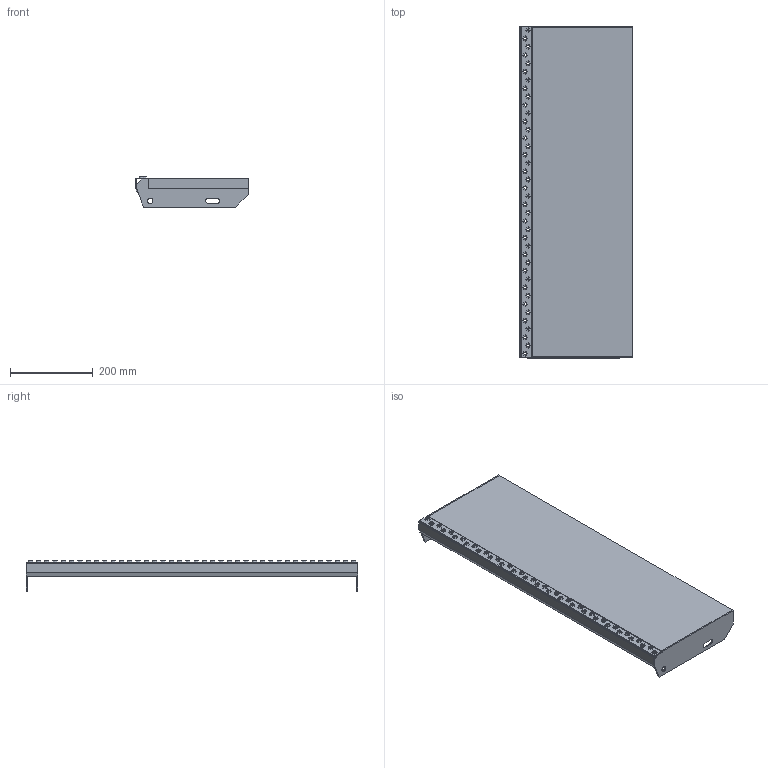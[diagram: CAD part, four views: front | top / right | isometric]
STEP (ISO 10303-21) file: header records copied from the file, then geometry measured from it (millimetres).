
FILE_DESCRIPTION(('Open CASCADE Model'),'2;1');
FILE_NAME('Open CASCADE Shape Model','2019-03-13T09:58:22',('Author'),( 'Open CASCADE'),'Open CASCADE STEP processor 7.2','Open CASCADE 7.2' ,'Unknown');
FILE_SCHEMA(('AUTOMOTIVE_DESIGN { 1 0 10303 214 1 1 1 1 }'));
Length unit declared in the file: millimetre
Products named in the file (1260): Open CASCADE STEP translator 7.2 1; Open CASCADE STEP translator 7.2 2; Open CASCADE STEP translator 7.2 3; Open CASCADE STEP translator 7.2 3.1; Open CASCADE STEP translator 7.2 3.2; Open CASCADE STEP translator 7.2 3.3; Open CASCADE STEP translator 7.2 3.4; Open CASCADE STEP translator 7.2 3.5; Open CASCADE STEP translator 7.2 3.6; Open CASCADE STEP translator 7.2 3.7; Open CASCADE STEP translator 7.2 3.8; Open CASCADE STEP translator 7.2 3.9; Open CASCADE STEP translator 7.2 3.10; Open CASCADE STEP translator 7.2 3.11; Open CASCADE STEP translator 7.2 3.12; Open CASCADE STEP translator 7.2 3.13; Open CASCADE STEP translator 7.2 3.14; Open CASCADE STEP translator 7.2 3.15; Open CASCADE STEP translator 7.2 3.16; Open CASCADE STEP translator 7.2 3.17; Open CASCADE STEP translator 7.2 3.18; Open CASCADE STEP translator 7.2 3.19; Open CASCADE STEP translator 7.2 3.20; Open CASCADE STEP translator 7.2 3.21; Open CASCADE STEP translator 7.2 3.22; Open CASCADE STEP translator 7.2 3.23; Open CASCADE STEP translator 7.2 3.24; Open CASCADE STEP translator 7.2 3.25; Open CASCADE STEP translator 7.2 3.26; Open CASCADE STEP translator 7.2 3.27; Open CASCADE STEP translator 7.2 3.28; Open CASCADE STEP translator 7.2 3.29; Open CASCADE STEP translator 7.2 3.30; Open CASCADE STEP translator 7.2 3.31; Open CASCADE STEP translator 7.2 3.32; Open CASCADE STEP translator 7.2 3.33; Open CASCADE STEP translator 7.2 3.34; Open CASCADE STEP translator 7.2 3.35; Open CASCADE STEP translator 7.2 3.36; Open CASCADE STEP translator 7.2 3.37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
Assembly tree (1256 placements, depth 2):
  Open CASCADE STEP translator 7.2 1
  Open CASCADE STEP translator 7.2 2
  Open CASCADE STEP translator 7.2 3
    Open CASCADE STEP translator 7.2 3.1
    Open CASCADE STEP translator 7.2 3.2
    Open CASCADE STEP translator 7.2 3.3
    Open CASCADE STEP translator 7.2 3.4
    Open CASCADE STEP translator 7.2 3.5
    Open CASCADE STEP translator 7.2 3.6
    Open CASCADE STEP translator 7.2 3.7
    Open CASCADE STEP translator 7.2 3.8
    Open CASCADE STEP translator 7.2 3.9
    Open CASCADE STEP translator 7.2 3.10
    Open CASCADE STEP translator 7.2 3.11
    Open CASCADE STEP translator 7.2 3.12
    Open CASCADE STEP translator 7.2 3.13
    Open CASCADE STEP translator 7.2 3.14
    Open CASCADE STEP translator 7.2 3.15
    Open CASCADE STEP translator 7.2 3.16
    Open CASCADE STEP translator 7.2 3.17
    Open CASCADE STEP translator 7.2 3.18
    Open CASCADE STEP translator 7.2 3.19
    Open CASCADE STEP translator 7.2 3.20
    Open CASCADE STEP translator 7.2 3.21
    Open CASCADE STEP translator 7.2 3.22
    Open CASCADE STEP translator 7.2 3.23
    Open CASCADE STEP translator 7.2 3.24
    Open CASCADE STEP translator 7.2 3.25
    Open CASCADE STEP translator 7.2 3.26
    Open CASCADE STEP translator 7.2 3.27
    Open CASCADE STEP translator 7.2 3.28
    Open CASCADE STEP translator 7.2 3.29
    Open CASCADE STEP translator 7.2 3.30
    Open CASCADE STEP translator 7.2 3.31
    Open CASCADE STEP translator 7.2 3.32
    Open CASCADE STEP translator 7.2 3.33
    Open CASCADE STEP translator 7.2 3.34
    Open CASCADE STEP translator 7.2 3.35
    Open CASCADE STEP translator 7.2 3.36
    Open CASCADE STEP translator 7.2 3.37
    Open CASCADE STEP translator 7.2 3.38
    Open CASCADE STEP translator 7.2 3.39
    Open CASCADE STEP translator 7.2 3.40
    Open CASCADE STEP translator 7.2 3.41
    Open CASCADE STEP translator 7.2 3.42
    Open CASCADE STEP translator 7.2 3.43
    Open CASCADE STEP translator 7.2 3.44
    Open CASCADE STEP translator 7.2 3.45
    Open CASCADE STEP translator 7.2 3.46
    Open CASCADE STEP translator 7.2 3.47
    Open CASCADE STEP translator 7.2 3.48
    Open CASCADE STEP translator 7.2 3.49
    Open CASCADE STEP translator 7.2 3.50
    Open CASCADE STEP translator 7.2 3.51
    Open CASCADE STEP translator 7.2 3.52
    Open CASCADE STEP translator 7.2 3.53
    Open CASCADE STEP translator 7.2 3.54
    Open CASCADE STEP translator 7.2 3.55
    Open CASCADE STEP translator 7.2 3.56
    Open CASCADE STEP translator 7.2 3.57
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Bounding box: 271 x 800 x 73 mm (x, y, z)
Volume: 4897851.2 mm3; surface area: 613876.3 mm2
Topology: 3 solids, 1259 shells, 1294 faces, 6900 edges, 6868 vertices
Faces by surface type: plane 1288, cylinder 6
Full cylindrical faces by diameter (mm): 13 x2
Entity records: 140072 total; most frequent: CARTESIAN_POINT 23411, DIRECTION 18974, LINE 13848, VECTOR 13848, ORIENTED_EDGE 6996, PCURVE 6996, DEFINITIONAL_REPRESENTATION 6996, EDGE_CURVE 6900
